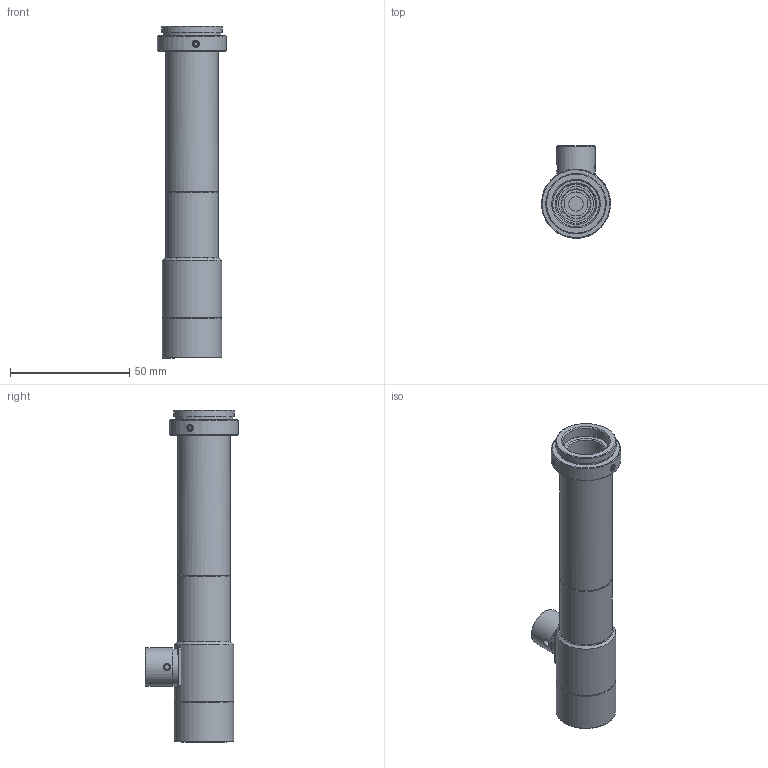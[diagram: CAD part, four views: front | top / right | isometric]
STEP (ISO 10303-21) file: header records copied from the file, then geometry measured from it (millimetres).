
FILE_DESCRIPTION(('STEP AP214'),'1');
FILE_NAME('RTK-6F-M65.stp','2026-07-31T09:06:09',(' '),(' '),'Spatial InterOp 3D',' ',' ');
FILE_SCHEMA(('AUTOMOTIVE_DESIGN { 1 0 10303 214 1 1 1 1 }'));
Length unit declared in the file: metre
Products named in the file (2): RTK-6F-M65; Component1
Assembly tree (1 placements, depth 2):
  RTK-6F-M65
    Component1
Bounding box: 28.94 x 39.05 x 139.12 mm (x, y, z)
Volume: 31915.5 mm3; surface area: 23843.2 mm2
Topology: 1 solids, 13 shells, 364 faces, 842 edges, 550 vertices
Faces by surface type: plane 176, cone 91, cylinder 80, torus 8, sphere 6, bspline 3
Full cylindrical faces by diameter (mm): 1.7 x8, 1.8 x4, 2.5 x3, 3 x3, 6 x1, 6.5 x1, 8 x1, 9 x1, 10 x1, 11 x1, 12 x2, 12.8 x1, 14 x1, 14.2 x1, 14.5 x1, 14.8 x1, 15 x1, 15.5 x1, 16 x1, 16.4 x2, 17.2 x2, 17.4 x3, 18 x1, 18.2 x2, 18.8 x1, 19 x4, 19.4 x1, 20 x2, 20.2 x1, 21 x1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
Entity records: 13014 total; most frequent: CARTESIAN_POINT 2459, DIRECTION 1632, ORIENTED_EDGE 1310, AXIS2_PLACEMENT_3D 700, EDGE_CURVE 655, EDGE_LOOP 570, VERTEX_POINT 502, FACE_OUTER_BOUND 443
